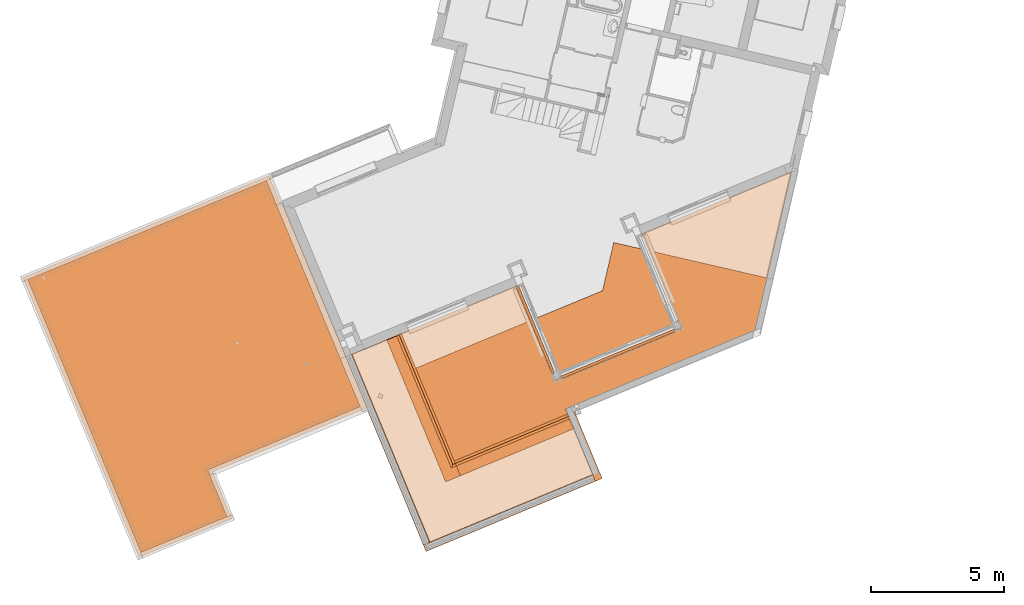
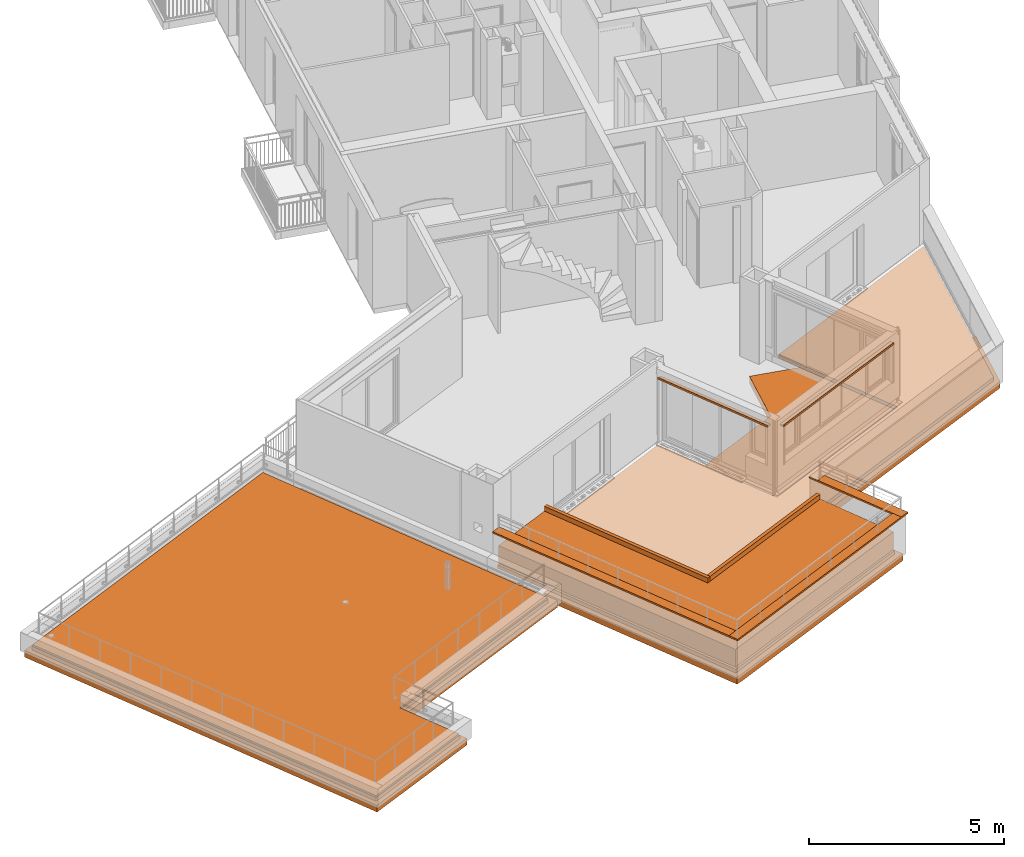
# One storey, part 59 of 62: 13 proxies.
"""IFC2X3 building model written with IfcOpenShell, lengths in metres."""

from ifc_helpers import new_model, entity, si_unit, converted_unit, derived_unit, money_unit, direction, frame, origin_with_axes, place, context, subcontext, project, spatial, faceted_brep, material, material_list, type_object, element, save


model = new_model("IFC2X3")

# Units and contexts
model_context = context("Model", 3, precision=1e-05, world=origin_with_axes(), true_north=direction((0.0, 1.0)))
body_context = subcontext(model_context, "Body", "Model", "MODEL_VIEW")
ifc_project = project(units=[si_unit("LENGTHUNIT", "METRE"), si_unit("AREAUNIT", "SQUARE_METRE"), si_unit("VOLUMEUNIT", "CUBIC_METRE"), converted_unit("PLANEANGLEUNIT", "DEGREE", entity("IfcPlaneAngleMeasure", 0.0174532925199), si_unit("PLANEANGLEUNIT", "RADIAN"), dimensions=[0, 0, 0, 0, 0, 0, 0]), si_unit("SOLIDANGLEUNIT", "STERADIAN"), money_unit("EUR"), converted_unit("TIMEUNIT", "Year", entity("IfcTimeMeasure", 31556926.0), si_unit("TIMEUNIT", "SECOND"), dimensions=[0, 0, 1, 0, 0, 0, 0]), si_unit("MASSUNIT", "GRAM", prefix="KILO"), si_unit("THERMODYNAMICTEMPERATUREUNIT", "DEGREE_CELSIUS"), si_unit("LUMINOUSINTENSITYUNIT", "LUMEN"), si_unit("ENERGYUNIT", "JOULE", prefix="MEGA"), derived_unit("THERMALCONDUCTANCEUNIT", [(si_unit("POWERUNIT", "WATT"), 1), (si_unit("LENGTHUNIT", "METRE"), -1), (si_unit("THERMODYNAMICTEMPERATUREUNIT", "KELVIN"), -1)]), derived_unit("SPECIFICHEATCAPACITYUNIT", [(si_unit("ENERGYUNIT", "JOULE"), 1), (si_unit("MASSUNIT", "GRAM", prefix="KILO"), -1), (si_unit("THERMODYNAMICTEMPERATUREUNIT", "KELVIN"), -1)]), derived_unit("MASSDENSITYUNIT", [(si_unit("MASSUNIT", "GRAM", prefix="KILO"), 1), (si_unit("VOLUMEUNIT", "CUBIC_METRE"), -1)])], contexts=[model_context])

# Site, building, storey
site_placement = place(None, origin_with_axes())
site = spatial("IfcSite", under=ifc_project, at=site_placement, Name="Site", CompositionType="ELEMENT")
building_placement = place(site_placement, origin_with_axes())
building = spatial("IfcBuilding", under=site, at=building_placement, Name="Bâtiment", CompositionType="ELEMENT")
storey_placement = place(building_placement, frame((0.0, 0.0, 8.16), z_axis=(0.0, 0.0, 1.0), x_axis=(1.0, 0.0, 0.0)))
storey = spatial("IfcBuildingStorey", under=building, at=storey_placement, Name="R+3", CompositionType="ELEMENT", Elevation=8.16)

# Proxies
ifc_material_1 = material(Name="Volume - Etude")
building_element_proxy_type_1 = type_object("IfcBuildingElementProxyType", Name="Volume - Etude", PredefinedType="NOTDEFINED")
proxy_1_placement = place(storey_placement, frame((-12.2964408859, -20.5161228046, 2.25000000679), z_axis=(0.0, 0.0, 1.0), x_axis=(-0.165581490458, 0.986196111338, 0.0)))
element("IfcBuildingElementProxy", 1, at=proxy_1_placement, inside=storey, type_object=building_element_proxy_type_1, material=ifc_material_1, Name="Forme-010", context=body_context, shape_type="Brep", body=[
    faceted_brep([(-0.801841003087, 2.93864420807, 0.0200000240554), (-0.801841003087, 2.93864420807, -0.0399999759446), (0.239335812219, -1.57276923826, -0.0399999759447), (0.239335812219, -1.57276923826, 0.0200000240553), (-0.792134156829, 2.94088442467, 0.0200000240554), (-0.792134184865, 2.94088441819, 0.0), (-0.684454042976, 2.96573562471, 0.0), (-0.684454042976, 2.96573562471, -0.0399999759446), (0.356722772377, -1.54567782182, -0.0399999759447), (0.356722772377, -1.54567782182, 0.0), (0.249042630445, -1.57052902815, 0.0), (0.249042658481, -1.57052902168, 0.0200000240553)], [[[0, 1, 2, 3]], [[1, 0, 4, 5, 6, 7]], [[2, 1, 7, 8]], [[3, 2, 8, 9, 10, 11]], [[4, 0, 3, 11]], [[5, 4, 11, 10]], [[6, 5, 10, 9]], [[7, 6, 9, 8]]]),
])
proxy_2_placement = place(storey_placement, frame((-15.9390595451, -20.0945471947, 2.25000000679), z_axis=(0.0, 0.0, 1.0), x_axis=(0.98619611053, 0.165581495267, 0.0)))
element("IfcBuildingElementProxy", 2, at=proxy_2_placement, inside=storey, type_object=building_element_proxy_type_1, material=ifc_material_1, Name="Forme-010", context=body_context, shape_type="Brep", body=[
    faceted_brep([(-0.555983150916, 1.87334347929, 0.0200000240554), (-0.555983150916, 1.87334347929, -0.0399999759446), (0.239335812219, -1.57276923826, -0.0399999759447), (0.239335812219, -1.57276923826, 0.0200000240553), (-0.546276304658, 1.87558369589, 0.0200000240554), (-0.546276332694, 1.87558368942, 0.0), (-0.438596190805, 1.90043489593, 0.0), (-0.438596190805, 1.90043489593, -0.0399999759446), (0.356722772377, -1.54567782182, -0.0399999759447), (0.356722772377, -1.54567782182, 0.0), (0.249042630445, -1.57052902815, 0.0), (0.249042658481, -1.57052902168, 0.0200000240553)], [[[0, 1, 2, 3]], [[1, 0, 4, 5, 6, 7]], [[2, 1, 7, 8]], [[3, 2, 8, 9, 10, 11]], [[4, 0, 3, 11]], [[5, 4, 11, 10]], [[6, 5, 10, 9]], [[7, 6, 9, 8]]]),
])
ifc_material_2 = material(Name="Béton")
building_element_proxy_type_2 = type_object("IfcBuildingElementProxyType", Name="Muret en L H=75 600 x 750", PredefinedType="USERDEFINED")
proxy_3_placement = place(storey_placement, frame((-19.1023919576, -24.8659642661, 0.11), z_axis=(0.0, 0.0, 1.0), x_axis=(-0.383112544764, 0.923701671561, 0.0)))
element("IfcBuildingElementProxy", 3, at=proxy_3_placement, inside=storey, type_object=building_element_proxy_type_2, material=ifc_material_2, Name="Muret béton préfabriqué en L H=75", ObjectType="CONSTRUCTION ELEMENT", context=body_context, shape_type="Brep", body=[
    faceted_brep([(5.15670001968, 0.187068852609, 0.112931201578), (5.17855265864, 0.18058588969, 0.119414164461), (5.1785526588, 0.0, 0.119414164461), (5.15670001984, 0.0, 0.112931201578), (5.18313928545, 0.1, 0.2), (5.18313927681, 0.179225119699, 0.120774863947), (5.15670001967, 0.190000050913, 0.110000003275), (5.15670001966, 0.2, 0.100000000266), (-0.199999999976, 0.2, 0.100000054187), (-0.0999999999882, 0.1, 0.200000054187), (5.18313927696, 0.0, 0.120774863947), (5.18313928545, 0.0, 0.75), (-0.1, 0.0, 0.750000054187), (-0.1, 0.0, 0.200000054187), (-0.2, 0.0, 0.100000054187), (-0.6, 0.0, 0.100000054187), (-0.6, 0.0, 5.4187044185e-08), (5.18313928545, 0.0, 0.0), (5.18313928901, 0.0, 0.0836332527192), (5.17313928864, 0.0, 0.0836332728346), (5.15793410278, 0.0, 0.0836332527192), (5.15670001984, 0.0, 0.0836332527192), (5.15670001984, 0.0, 0.110000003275), (5.18313928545, 0.1, 0.75), (5.15670001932, 0.6, 0.0836332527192), (5.15670001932, 0.6, 0.100000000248), (-0.599999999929, 0.6, 0.100000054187), (-0.599999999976, 0.2, 0.100000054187), (-0.0999999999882, 0.1, 0.750000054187), (-0.599999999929, 0.6, 5.4187044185e-08), (5.18313928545, 0.6, 0.0), (5.18313928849, 0.6, 0.0836332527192), (5.17313928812, 0.6, 0.0836332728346), (5.15793410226, 0.6, 0.0836332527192)], [[[0, 1, 2, 3]], [[4, 5, 1, 0, 6, 7, 8, 9]], [[5, 10, 2, 1]], [[3, 2, 10, 11, 12, 13, 14, 15, 16, 17, 18, 19, 20, 21, 22]], [[0, 3, 22, 6]], [[11, 10, 5, 4, 23]], [[7, 6, 22, 21, 24, 25]], [[8, 7, 25, 26, 27]], [[9, 8, 14, 13]], [[23, 4, 9, 28]], [[11, 23, 28, 12]], [[28, 9, 13, 12]], [[8, 27, 15, 14]], [[26, 29, 16, 15, 27]], [[30, 17, 16, 29]], [[30, 31, 18, 17]], [[31, 32, 19, 18]], [[32, 33, 20, 19]], [[24, 21, 20, 33]], [[25, 24, 33, 32, 31, 30, 29, 26]]]),
])
proxy_4_placement = place(storey_placement, frame((-14.8307755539, -23.0942777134, 0.110000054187), z_axis=(0.0, 0.0, 1.0), x_axis=(-0.923701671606, -0.383112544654, 0.0)))
element("IfcBuildingElementProxy", 4, at=proxy_4_placement, inside=storey, type_object=building_element_proxy_type_2, material=ifc_material_2, Name="Muret béton préfabriqué en L H=75", ObjectType="CONSTRUCTION ELEMENT", context=body_context, shape_type="Brep", body=[
    faceted_brep([(0.0, 0.2, 0.1), (4.62445455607, 0.2, 0.1), (4.62445455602, 0.6, 0.1), (0.0, 0.6, 0.1), (0.0, 0.1, 0.2), (4.62445455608, 0.1, 0.2), (4.62445455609, 0.0, -5.62189939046e-09), (4.62445455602, 0.6, 0.0), (4.62445455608, 0.1, 0.75), (4.62445455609, 0.0, 0.749999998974), (0.0, 0.6, 0.0), (0.0, 0.0, 0.0), (0.0, 0.0, 0.75), (0.0, 0.1, 0.75)], [[[0, 1, 2, 3]], [[4, 5, 1, 0]], [[6, 7, 2, 1, 5, 8, 9]], [[3, 2, 7, 10]], [[0, 3, 10, 11, 12, 13, 4]], [[13, 8, 5, 4]], [[10, 7, 6, 11]], [[12, 9, 8, 13]], [[11, 6, 9, 12]]]),
])
ifc_material_3 = material(Name="Env. - Terre")
building_element_proxy_type_3 = type_object("IfcBuildingElementProxyType", Name="Env. - Terre", PredefinedType="NOTDEFINED")
proxy_5_placement = place(storey_placement, frame((-22.9600165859, -27.9180536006, 0.158024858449), z_axis=(0.0, 0.0, 1.0), x_axis=(1.0, 0.0, 0.0)))
element("IfcBuildingElementProxy", 5, at=proxy_5_placement, inside=storey, type_object=building_element_proxy_type_3, material=ifc_material_3, Name="TER-004", context=body_context, shape_type="Brep", body=[
    faceted_brep([(0.0, 7.04713991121, 0.55), (2.93637268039, 0.0, 0.55), (9.06503012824, 2.52839306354, 0.55), (8.16755228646, 4.73140572, 0.55), (3.80356571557, 2.92140791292, 0.55), (1.78527547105, 7.78759696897, 0.55), (2.93637268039, 0.0, 0.0), (0.0, 7.04713991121, 0.0), (9.06503012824, 2.52839306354, 0.0), (8.16755228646, 4.73140572, 0.0), (3.80356571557, 2.92140791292, 0.0), (1.78527547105, 7.78759696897, 0.0)], [[[0, 1, 2, 3, 4, 5]], [[6, 1, 0, 7]], [[8, 2, 1, 6]], [[9, 3, 2, 8]], [[10, 4, 3, 9]], [[11, 5, 4, 10]], [[7, 0, 5, 11]], [[7, 11, 10, 9, 8, 6]]]),
])
building_element_proxy_type_4 = type_object("IfcBuildingElementProxyType", Name="Béton 210", PredefinedType="NOTDEFINED")
proxy_6_placement = place(storey_placement, frame((-26.0625284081, -14.1554046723, 0.0), z_axis=(0.0, 0.0, 1.0), x_axis=(1.0, 0.0, 0.0)))
element("IfcBuildingElementProxy", 6, at=proxy_6_placement, inside=storey, type_object=building_element_proxy_type_4, material=ifc_material_2, Name="Dalle_004", context=body_context, shape_type="Brep", body=[
    faceted_brep([(-9.22964281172, -3.82806705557, 0.0), (0.0, 0.0, 0.0), (0.0, 0.0, -0.21), (-9.22964281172, -3.82806705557, -0.21), (0.522674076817, -1.08269837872, 0.0), (0.459869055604, -1.10875094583, 0.0), (-4.87511394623, -14.3270331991, 0.0), (-1.38451166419, -12.8792784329, 0.0), (-2.11242538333, -11.1242451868, 0.0), (3.68942646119, -8.71788143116, 0.0), (0.459869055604, -1.10875094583, -0.21), (-4.87511394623, -14.3270331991, -0.21), (0.522674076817, -1.08269837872, -0.21), (3.68942646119, -8.71788143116, -0.21), (-2.11242538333, -11.1242451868, -0.21), (-1.38451166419, -12.8792784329, -0.21)], [[[0, 1, 2, 3]], [[4, 5, 1, 0, 6, 7, 8, 9]], [[1, 5, 10, 2]], [[11, 3, 2, 10, 12, 13, 14, 15]], [[6, 0, 3, 11]], [[5, 4, 12, 10]], [[7, 6, 11, 15]], [[8, 7, 15, 14]], [[9, 8, 14, 13]], [[4, 9, 13, 12]]]),
])
ifc_material_4 = material(Name="Etanchéité - Bitume")
ifc_material_5 = material(Name="Isolation - Polyuréthane (extérieur)")
ifc_material_list = material_list([ifc_material_4, ifc_material_5])
building_element_proxy_type_5 = type_object("IfcBuildingElementProxyType", Name="6 - Isolation sur terrasse sous gravier 110", PredefinedType="NOTDEFINED")
proxy_7_placement = place(storey_placement, frame((-35.1196717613, -18.0548294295, 0.11), z_axis=(0.0, 0.0, 1.0), x_axis=(1.0, 0.0, 0.0)))
element("IfcBuildingElementProxy", 7, at=proxy_7_placement, inside=storey, type_object=building_element_proxy_type_5, material=ifc_material_list, Name="Dalle_003", context=body_context, shape_type="Brep", body=[
    faceted_brep([(0.0, 0.0, -0.01), (4.25338723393, -10.2551089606, -0.01), (4.25338723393, -10.2551089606, 0.0), (0.0, 0.0, 0.0), (8.97192967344, 3.72117850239, -0.01), (12.4974030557, -4.77889728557, -0.01), (6.77221844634, -7.15346270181, -0.01), (7.50013227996, -8.90849587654, -0.01), (7.50013227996, -8.90849587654, 0.0), (8.97192967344, 3.72117850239, 0.0), (6.77221844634, -7.15346270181, 0.0), (12.4974030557, -4.77889728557, 0.0)], [[[0, 1, 2, 3]], [[1, 0, 4, 5, 6, 7]], [[1, 7, 8, 2]], [[9, 3, 2, 8, 10, 11]], [[4, 0, 3, 9]], [[5, 4, 9, 11]], [[6, 5, 11, 10]], [[7, 6, 10, 8]]]),
    faceted_brep([(0.0, 0.0, -0.11), (4.25338723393, -10.2551089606, -0.11), (4.25338723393, -10.2551089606, -0.01), (0.0, 0.0, -0.01), (8.97192967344, 3.72117850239, -0.11), (12.4974030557, -4.77889728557, -0.11), (6.77221844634, -7.15346270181, -0.11), (7.50013227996, -8.90849587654, -0.11), (7.50013227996, -8.90849587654, -0.01), (6.77221844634, -7.15346270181, -0.01), (12.4974030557, -4.77889728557, -0.01), (8.97192967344, 3.72117850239, -0.01)], [[[0, 1, 2, 3]], [[0, 4, 5, 6, 7, 1]], [[1, 7, 8, 2]], [[3, 2, 8, 9, 10, 11]], [[4, 0, 3, 11]], [[5, 4, 11, 10]], [[6, 5, 10, 9]], [[7, 6, 9, 8]]]),
])
ifc_material_6 = material(Name="Env. - Gravier")
building_element_proxy_type_6 = type_object("IfcBuildingElementProxyType", Name="Env. - Gravier 50", PredefinedType="NOTDEFINED")
proxy_8_placement = place(storey_placement, frame((-35.100069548, -18.0629382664, 0.159999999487), z_axis=(0.0, 0.0, 1.0), x_axis=(1.0, 0.0, 0.0)))
element("IfcBuildingElementProxy", 8, at=proxy_8_placement, inside=storey, type_object=building_element_proxy_type_6, material=ifc_material_6, Name="Dalle_003", context=body_context, shape_type="Brep", body=[
    faceted_brep([(4.24189385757, -10.2273979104, 0.0), (0.0, 0.0, 0.0), (0.0, 0.0, -0.05), (4.24189385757, -10.2273979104, -0.05), (12.4581986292, -4.76267961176, 0.0), (8.94421862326, 3.70968512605, 0.0), (7.46092785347, -8.89227820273, 0.0), (6.73301401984, -7.13724502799, 0.0), (8.94421862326, 3.70968512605, -0.05), (7.46092785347, -8.89227820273, -0.05), (12.4581986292, -4.76267961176, -0.05), (6.73301401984, -7.13724502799, -0.05)], [[[0, 1, 2, 3]], [[4, 5, 1, 0, 6, 7]], [[1, 5, 8, 2]], [[9, 3, 2, 8, 10, 11]], [[6, 0, 3, 9]], [[5, 4, 10, 8]], [[7, 6, 9, 11]], [[4, 7, 11, 10]]]),
])
ifc_material_7 = material(Name="Métal - Aluminium")
building_element_proxy_type_7 = type_object("IfcBuildingElementProxyType", Name="Couvertine Métal 280 x 50", PredefinedType="USERDEFINED")
proxy_9_placement = place(storey_placement, frame((-13.7320536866, -25.4465807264, 1.278), z_axis=(0.0, 0.0, 1.0), x_axis=(-0.923701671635, -0.383112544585, 0.0)))
element("IfcBuildingElementProxy", 9, at=proxy_9_placement, inside=storey, type_object=building_element_proxy_type_7, material=ifc_material_7, Name="Couvertine métal laqué", ObjectType="CONSTRUCTION ELEMENT", context=body_context, shape_type="Brep", body=[
    faceted_brep([(7.02094890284, 0.138194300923, -0.0442531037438), (7.0191411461, 0.138194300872, -0.044253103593), (7.0191411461, 0.134946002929, -0.0442531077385), (7.02094890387, 0.134946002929, -0.0442531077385), (-0.134946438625, 0.138194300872, -0.044253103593), (7.02094890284, 0.138194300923, 0.0), (0.140002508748, 0.138194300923, 0.0), (-0.138194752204, 0.138194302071, -1.41714195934e-10), (-0.138194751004, 0.138194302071, -0.0399754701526), (-0.138194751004, 0.138194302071, -0.0442531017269), (7.01561115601, 0.131416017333, -0.0416371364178), (7.01336889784, 0.132422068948, -0.0399754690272), (-0.14000250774, 0.14000205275, -0.048), (7.02094890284, 0.14000205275, -0.048), (-0.131416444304, 0.131416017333, -0.0416371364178), (-0.134946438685, 0.134946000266, -0.0442531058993), (7.02094890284, 0.14000205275, 0.00200000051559), (7.02094890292, -0.14000205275, 0.00200000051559), (7.02094890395, -0.14000205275, 1.54017598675e-09), (7.02094890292, -0.138194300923, 0.0), (-0.132422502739, 0.132422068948, -0.0399754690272), (-0.131416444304, 0.134664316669, -0.041637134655), (7.01914114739, -0.138194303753, 1.54017598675e-09), (6.742751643, -0.138194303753, 1.54017598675e-09), (0.140002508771, -0.138194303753, 1.54017598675e-09), (0.140002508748, 0.14000205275, 0.0), (-0.138194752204, 0.14000205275, 1.8230412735e-09), (-0.138194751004, 0.14000205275, -0.0399754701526), (-0.138194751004, 0.14000205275, -0.0442531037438), (-0.134946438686, 0.14000205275, -0.0442531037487), (0.140002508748, 0.14000205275, 0.002), (0.140002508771, -0.14000205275, 0.002), (6.742751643, -0.14000205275, 1.54017598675e-09), (7.01914114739, -0.14000205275, 1.54017598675e-09), (0.140002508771, -0.14000205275, 1.54017598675e-09), (0.140002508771, -0.14000205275, -0.0399754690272), (0.140002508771, -0.14000205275, -0.0442531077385), (0.140002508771, -0.14000205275, -0.048), (6.74094388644, -0.14000205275, -0.048), (6.74599995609, -0.14000205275, -0.0442531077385), (6.7427516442, -0.14000205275, -0.0442531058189), (6.742751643, -0.14000205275, -0.0399754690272), (6.742751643, -0.138194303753, -0.0399754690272), (6.7427516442, -0.138194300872, -0.0442531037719), (0.140002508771, -0.138194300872, -0.0442531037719), (0.140002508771, -0.138194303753, -0.0399754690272), (0.14000250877, -0.134946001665, -0.0442531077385), (0.134664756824, -0.13141601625, -0.0416371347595), (6.74952995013, -0.13141601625, -0.0416371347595), (6.74599995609, -0.134946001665, -0.0442531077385), (0.138194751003, -0.134946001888, -0.0442531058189), (6.74599995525, -0.138194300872, -0.0442531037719), (6.74952995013, -0.13466431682, -0.0416371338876), (6.74852389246, -0.132422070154, -0.0399754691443), (0.132422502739, -0.132422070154, -0.0399754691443), (0.138194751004, -0.138194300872, -0.0442531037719)], [[[0, 1, 2, 3]], [[4, 1, 0, 5, 6, 7, 8, 9]], [[10, 2, 1, 11]], [[12, 13, 3, 2, 10, 14, 15]], [[0, 3, 13, 16, 17, 18, 19, 5]], [[20, 11, 1, 4, 21]], [[6, 5, 19, 22, 23, 24]], [[7, 6, 25, 26]], [[7, 26, 27, 8]], [[8, 27, 28, 9]], [[28, 29, 4, 9]], [[14, 10, 11, 20]], [[30, 16, 13, 12, 29, 28, 27, 26, 25]], [[21, 4, 15, 14]], [[15, 4, 29, 12]], [[31, 17, 16, 30]], [[32, 33, 18, 17, 31, 34, 35, 36, 37, 38, 39, 40, 41]], [[22, 19, 18, 33]], [[20, 21, 14]], [[23, 22, 33, 32]], [[24, 23, 42, 43, 44, 45]], [[24, 34, 31, 30, 25, 6]], [[34, 24, 45, 35]], [[35, 45, 44, 36]], [[36, 44, 46, 37]], [[47, 48, 49, 38, 37, 46, 50]], [[49, 51, 39, 38]], [[40, 39, 51, 43]], [[41, 40, 43, 42]], [[32, 41, 42, 23]], [[43, 51, 52, 53, 54, 55, 44]], [[50, 46, 44, 55]], [[54, 53, 48, 47]], [[49, 48, 52, 51]], [[54, 47, 50, 55]], [[53, 52, 48]]]),
])
proxy_10_placement = place(storey_placement, frame((-14.7640678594, -22.9583478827, 1.278), z_axis=(0.0, 0.0, 1.0), x_axis=(0.383112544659, -0.923701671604, 0.0)))
element("IfcBuildingElementProxy", 10, at=proxy_10_placement, inside=storey, type_object=building_element_proxy_type_7, material=ifc_material_7, Name="Couvertine métal laqué", ObjectType="CONSTRUCTION ELEMENT", context=body_context, shape_type="Brep", body=[
    faceted_brep([(-0.134946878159, -0.134946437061, -0.0442531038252), (-0.134946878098, -0.138194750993, -0.0442531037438), (-0.131416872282, -0.134664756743, -0.0416371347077), (-0.131416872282, -0.131416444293, -0.041637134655), (-0.140002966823, -0.14000250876, -0.048), (-0.134946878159, -0.14000250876, -0.0442531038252), (-0.132422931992, -0.132422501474, -0.0399754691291), (2.55556811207, -0.138194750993, -0.0442531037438), (2.55881641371, -0.138194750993, -0.0442531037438), (2.56234639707, -0.134664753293, -0.0416371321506), (2.56134034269, -0.132422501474, -0.0399754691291), (2.56234639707, -0.131416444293, -0.041637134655), (2.55881641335, -0.134946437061, -0.0442531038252), (2.55376036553, -0.14000250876, -0.048), (2.83376446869, -0.14000250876, 0.0019999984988), (0.140002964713, -0.14000250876, 0.00199999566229), (0.140002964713, -0.14000250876, 0.0), (-0.14000296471, -0.14000250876, 0.0), (-0.14000296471, -0.14000250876, -0.0399754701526), (-0.138195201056, -0.14000250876, -0.0399754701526), (-0.138195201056, -0.14000250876, -0.0442531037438), (2.55881641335, -0.14000250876, -0.0442531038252), (2.55556811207, -0.14000250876, -0.0442531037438), (2.55556811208, -0.14000250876, -0.0399754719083), (2.55556811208, -0.14000250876, 3.56177309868e-10), (2.83195671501, -0.14000250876, 3.56177309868e-10), (2.83376446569, -0.14000250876, 3.56177309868e-10), (-0.138195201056, -0.138194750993, -0.0442531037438), (-0.14000296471, -0.138194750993, -0.0399754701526), (-0.140002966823, -0.138194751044, 0.0), (0.140002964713, -0.138194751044, 0.0), (2.55556811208, -0.138194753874, 3.56177309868e-10), (2.55556811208, -0.138194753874, -0.0399754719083), (-0.138195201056, -0.138194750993, -0.0399754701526), (0.14000296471, 0.14000250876, 0.00199999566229), (2.83376446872, 0.14000250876, 0.0019999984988), (0.14000296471, 0.14000250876, -5.15942844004e-10), (0.14000296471, 0.138194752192, 1.82305193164e-09), (2.83195671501, -0.138194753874, 3.56177309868e-10), (2.83376446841, -0.138194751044, 0.0), (2.83376446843, 0.138194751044, 0.0), (2.8337644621, 0.138194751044, -0.0442531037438), (2.83376446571, 0.134946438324, -0.0442531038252), (2.83376446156, 0.14000250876, -0.048), (0.14000296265, 0.14000250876, -0.048), (0.14000296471, 0.14000250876, -0.0442531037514), (0.14000296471, 0.14000250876, -0.0399754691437), (0.14000296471, 0.138194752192, -0.0399754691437), (0.14000296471, 0.138194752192, -0.0442531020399), (2.83195671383, 0.138194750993, -0.0442531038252), (2.83195671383, 0.134946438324, -0.0442531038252), (2.82842672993, 0.131416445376, -0.0416371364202), (0.134665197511, 0.131416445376, -0.0416371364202), (0.138195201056, 0.134946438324, -0.0442531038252), (0.14000296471, 0.134946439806, -0.0442531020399), (0.138195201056, 0.138194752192, -0.0442531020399), (0.132422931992, 0.132422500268, -0.0399754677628), (2.82618448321, 0.132422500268, -0.0399754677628)], [[[0, 1, 2, 3]], [[4, 5, 1, 0]], [[6, 2, 1, 7, 8, 9, 10]], [[6, 3, 2]], [[4, 0, 3, 11, 12, 13]], [[14, 15, 16, 17, 18, 19, 20, 5, 4, 13, 21, 22, 23, 24, 25, 26]], [[27, 1, 5, 20]], [[28, 29, 30, 31, 32, 7, 1, 27, 33]], [[22, 21, 8, 7]], [[9, 8, 12, 11]], [[10, 9, 11]], [[11, 3, 6, 10]], [[12, 8, 21, 13]], [[34, 15, 14, 35]], [[30, 16, 15, 34, 36, 37]], [[17, 16, 30, 29]], [[28, 18, 17, 29]], [[33, 19, 18, 28]], [[27, 20, 19, 33]], [[23, 22, 7, 32]], [[24, 23, 32, 31]], [[25, 24, 31, 38]], [[39, 26, 25, 38]], [[26, 39, 40, 41, 42, 43, 35, 14]], [[38, 31, 30, 37, 40, 39]], [[43, 44, 45, 46, 36, 34, 35]], [[46, 47, 37, 36]], [[37, 47, 48, 49, 41, 40]], [[50, 42, 41, 49]], [[50, 51, 52, 53, 54, 44, 43, 42]], [[44, 54, 48, 45]], [[45, 48, 47, 46]], [[55, 56, 57, 49, 48]], [[57, 51, 50, 49]], [[56, 52, 51, 57]], [[56, 55, 53, 52]], [[54, 53, 55, 48]]]),
])
proxy_11_placement = place(storey_placement, frame((-20.0879953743, -28.082757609, 1.278), z_axis=(0.0, 0.0, 1.0), x_axis=(-0.383112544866, 0.923701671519, 0.0)))
element("IfcBuildingElementProxy", 11, at=proxy_11_placement, inside=storey, type_object=building_element_proxy_type_7, material=ifc_material_7, Name="Couvertine métal laqué", ObjectType="CONSTRUCTION ELEMENT", context=body_context, shape_type="Brep", body=[
    faceted_brep([(-0.134946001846, 0.138194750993, -0.0442531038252), (-0.134946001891, 0.14000250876, -0.0442531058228), (-0.140002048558, 0.14000250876, -0.048), (-0.134946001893, 0.134946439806, -0.0442531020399), (-0.13819430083, 0.138194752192, -0.0442531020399), (-0.138194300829, 0.14000250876, -0.0442531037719), (0.140002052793, 0.14000250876, 0.00199999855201), (7.7594457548, 0.14000250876, 0.002), (7.7594457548, 0.14000250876, -0.048), (-0.138194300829, 0.14000250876, -0.0399754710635), (-0.138194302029, 0.14000250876, 0.0), (0.140002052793, 0.14000250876, 0.0), (7.7594457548, 0.131416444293, -0.0416371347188), (-0.13141601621, 0.131416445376, -0.0416371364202), (-0.131416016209, 0.134664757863, -0.0416371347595), (7.7594457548, 0.138194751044, -0.0442531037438), (7.7594457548, 0.138194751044, 0.0), (0.140002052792, 0.138194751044, 0.0), (-0.138194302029, 0.138194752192, 1.82305193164e-09), (-0.13819430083, 0.138194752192, -0.0399754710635), (7.7594457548, -0.14000250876, 0.002), (0.140002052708, -0.14000250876, 0.00199999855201), (7.7594457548, -0.14000250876, -0.048), (7.7594457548, -0.131416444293, -0.0416371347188), (7.7594457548, -0.132422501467, -0.0399754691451), (7.7594457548, -0.138194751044, -0.0442531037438), (7.7594457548, -0.138194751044, 0.0), (7.7594457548, 0.132422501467, -0.0399754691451), (0.140002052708, -0.138194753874, 3.56177309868e-10), (0.140002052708, -0.14000250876, 3.56177309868e-10), (-0.132422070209, 0.132422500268, -0.0399754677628), (0.140002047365, -0.14000250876, -0.048), (0.140002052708, -0.14000250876, -0.0399754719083), (0.140002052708, -0.14000250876, -0.0442531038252), (0.134664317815, -0.131416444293, -0.041637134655), (0.140002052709, -0.134946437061, -0.0442531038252), (0.138194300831, -0.134946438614, -0.0442531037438), (0.132422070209, -0.132422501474, -0.0399754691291), (0.140002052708, -0.138194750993, -0.0442531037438), (0.13819430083, -0.138194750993, -0.0442531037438), (0.140002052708, -0.138194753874, -0.0399754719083)], [[[0, 1, 2, 3]], [[0, 4, 5, 1]], [[6, 7, 8, 2, 1, 5, 9, 10, 11]], [[2, 8, 12, 13, 3]], [[14, 0, 3, 13]], [[4, 0, 15, 16, 17, 18, 19]], [[9, 5, 4, 19]], [[20, 7, 6, 21]], [[12, 8, 7, 20, 22, 23, 24, 25, 26, 16, 15, 27]], [[10, 9, 19, 18]], [[17, 11, 10, 18]], [[21, 6, 11, 17, 28, 29]], [[13, 12, 27, 30]], [[27, 15, 0, 14, 30]], [[13, 30, 14]], [[28, 17, 16, 26]], [[31, 22, 20, 21, 29, 32, 33]], [[34, 23, 22, 31, 35, 36]], [[37, 24, 23, 34]], [[38, 25, 24, 37, 39]], [[28, 26, 25, 38, 40]], [[32, 29, 28, 40]], [[32, 40, 38, 33]], [[38, 35, 31, 33]], [[38, 39, 36, 35]], [[34, 36, 39, 37]]]),
])
building_element_proxy_type_8 = type_object("IfcBuildingElementProxyType", Name="Béton 230", PredefinedType="NOTDEFINED")
proxy_12_placement = place(storey_placement, frame((-20.6947387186, -21.6472938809, 0.0), z_axis=(0.0, 0.0, 1.0), x_axis=(1.0, 0.0, 0.0)))
element("IfcBuildingElementProxy", 12, at=proxy_12_placement, inside=storey, type_object=building_element_proxy_type_8, material=ifc_material_2, Name="Dalle_003", context=body_context, shape_type="Brep", body=[
    faceted_brep([(0.714469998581, -6.44707973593, -0.210000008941), (0.714469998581, -6.44707973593, -0.219999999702), (6.99951621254, -3.84030730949, -0.219999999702), (7.01799020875, -3.83264497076, -0.219999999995), (7.01799022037, -3.83264496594, 0.0), (0.574067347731, -6.50531278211, 0.0), (0.574067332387, -6.50531278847, -0.200000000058), (0.592541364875, -6.49765053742, -0.200000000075), (0.592541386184, -6.49765058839, -0.21), (0.706807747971, -6.42860570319, -0.23), (0.706807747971, -6.42860570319, -0.22), (-1.67190000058, -0.693433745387, -0.21000000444), (-1.67190000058, -0.693433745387, -0.23), (6.99185396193, -3.82183327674, -0.22), (5.85946465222, -1.09159143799, -0.219999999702), (5.87793868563, -1.08392918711, -0.219999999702), (5.9859763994, -1.34441300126, -0.21999999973), (5.98597641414, -1.34441302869, -0.200000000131), (5.98597645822, -1.34441297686, 0.0), (5.98597639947, -1.34441300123, -0.21), (6.00436582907, -1.38875071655, -0.210000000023), (6.00436582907, -1.38875071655, -0.200000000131), (-1.81230262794, -0.751666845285, 0.0), (13.0151797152, 1.57100439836, 0.0), (13.4872579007, 3.61651659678, 0.0), (7.57590690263, 4.9807811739, 0.0), (7.15658902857, 3.1739458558, 0.0), (-0.0727674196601, 0.175513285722, 0.0), (0.0, 0.0, 0.0), (-1.81230265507, -0.751666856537, -0.200000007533), (-1.79382862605, -0.744004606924, -0.200000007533), (-1.79382862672, -0.7440046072, -0.210000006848), (6.99185396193, -3.82183327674, -0.23), (0.0, 0.0, -0.23), (-0.0727674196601, 0.175513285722, -0.23), (7.15658902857, 3.1739458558, -0.23), (7.57590690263, 4.9807811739, -0.23), (12.7077480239, 3.79641755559, -0.23), (12.6785141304, 3.66974725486, -0.23), (12.725284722, 3.65895319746, -0.23), (12.7545186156, 3.78562349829, -0.23), (13.3391510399, 3.65069781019, -0.23), (12.8846689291, 1.68142930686, -0.23), (5.97208099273, -1.18562099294, -0.23), (5.9222763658, -1.06553978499, -0.23), (5.85946465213, -1.09159143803, -0.23), (5.9222763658, -1.06553978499, -0.22), (5.9222763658, -1.06553978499, -0.209999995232), (5.87793868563, -1.08392918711, -0.209999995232), (5.97831416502, -1.32593900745, -0.210000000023), (13.0151797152, 1.57100439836, -0.200000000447), (5.95984013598, -1.33360125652, -0.21), (5.98589178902, -1.39641297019, -0.21), (5.98589178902, -1.39641297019, -0.2), (5.96750238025, -1.35207527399, -0.2), (13.4872579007, 3.61651659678, -0.200000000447), (13.4677701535, 3.62101412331, -0.2), (13.4677701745, 3.62101415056, -0.210000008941), (13.3391510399, 3.65069781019, -0.210000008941), (12.7545186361, 3.78562358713, -0.209999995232), (12.7077480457, 3.7964176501, -0.209999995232), (12.6785141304, 3.66974725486, -0.209999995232), (12.725284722, 3.65895319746, -0.209999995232), (12.8846689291, 1.68142930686, -0.210000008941), (5.97208099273, -1.18562099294, -0.210000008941), (5.97208099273, -1.18562099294, -0.22), (13.0344785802, 1.74356403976, -0.210000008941), (12.9980072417, 1.58553399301, -0.21), (6.0226518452, -1.30754960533, -0.210000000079), (5.95984013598, -1.33360125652, -0.2), (12.9980072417, 1.58553399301, -0.2)], [[[0, 1, 2, 3, 4, 5, 6, 7, 8]], [[9, 10, 1, 0, 11, 12]], [[3, 2, 1, 10, 13, 14, 15, 16]], [[17, 18, 4, 3, 16, 19, 20, 21]], [[22, 5, 4, 18, 23, 24, 25, 26, 27, 28]], [[5, 22, 29, 6]], [[29, 30, 7, 6]], [[30, 31, 8, 7]], [[31, 11, 0, 8]], [[32, 13, 10, 9]], [[11, 31, 30, 29, 22, 28, 33, 12]], [[32, 9, 12, 33, 34, 35, 36, 37, 38, 39, 40, 41, 42, 43, 44, 45]], [[14, 13, 32, 45]], [[15, 14, 45, 44, 46, 47, 48]], [[15, 48, 49, 19, 16]], [[23, 18, 17, 50]], [[51, 52, 20, 19, 49]], [[20, 52, 53, 21]], [[21, 53, 54, 17]], [[55, 24, 23, 50]], [[55, 56, 57, 58, 41, 40, 59, 60, 37, 36, 25, 24]], [[36, 35, 26, 25]], [[35, 34, 27, 26]], [[34, 33, 28, 27]], [[37, 60, 61, 38]], [[39, 38, 61, 62]], [[59, 40, 39, 62]], [[58, 63, 42, 41]], [[64, 65, 43, 42, 63]], [[65, 46, 44, 43]], [[64, 47, 46, 65]], [[48, 47, 64, 63, 66, 67, 68, 49]], [[54, 69, 70, 56, 55, 50, 17]], [[53, 52, 51, 69, 54]], [[70, 69, 51, 49, 68, 67]], [[56, 70, 67, 66, 57]], [[57, 66, 63, 58]], [[60, 59, 62, 61]]]),
])
building_element_proxy_type_9 = type_object("IfcBuildingElementProxyType", Name="6 - Isolation sur terrasse béton protections multiples 110", PredefinedType="NOTDEFINED")
proxy_13_placement = place(storey_placement, frame((-21.0881176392, -20.0782898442, 0.11), z_axis=(0.0, 0.0, 1.0), x_axis=(1.0, 0.0, 0.0)))
element("IfcBuildingElementProxy", 13, at=proxy_13_placement, inside=storey, type_object=building_element_proxy_type_9, material=ifc_material_list, Name="Dalle_003", context=body_context, shape_type="Brep", body=[
    faceted_brep([(14.6507343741, 6.06026848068, -0.00999999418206), (14.6507343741, 6.06026848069, 0.0), (13.278047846, 0.112425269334, 0.0), (13.278047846, 0.112425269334, -0.01), (14.4736380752, 5.98681641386, 0.0), (14.4736380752, 5.98681641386, -0.01), (14.4678913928, 6.00067192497, 0.0), (9.01759559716, 3.74011879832, 0.0), (10.4872686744, 0.196670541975, 0.0), (5.79855898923, -1.74800873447, 0.0), (4.32888590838, 1.79543953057, 0.0), (-1.39698213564, -0.579409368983, 0.0), (-1.39123544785, -0.593264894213, 0.0), (-1.88575440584, -0.798370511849, 0.0), (1.0496158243, -7.87568110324, 0.0), (7.21273340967, -5.31947953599, 0.0), (6.18071958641, -2.83124753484, 0.0), (6.18071958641, -2.83124753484, -0.01), (7.21273340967, -5.31947953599, -0.01), (1.0496158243, -7.87568110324, -0.01), (-1.88575440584, -0.798370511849, -0.01), (-1.39123544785, -0.593264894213, -0.01), (-1.39698213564, -0.579409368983, -0.01), (4.32888590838, 1.79543953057, -0.01), (5.79855898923, -1.74800873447, -0.01), (10.4872686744, 0.196670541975, -0.01), (9.01759559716, 3.74011879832, -0.01), (14.4678913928, 6.00067192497, -0.01)], [[[0, 1, 2, 3]], [[4, 1, 0, 5]], [[4, 6, 7, 8, 9, 10, 11, 12, 13, 14, 15, 16, 2, 1]], [[17, 3, 2, 16]], [[5, 0, 3, 17, 18, 19, 20, 21, 22, 23, 24, 25, 26, 27]], [[6, 4, 5, 27]], [[6, 27, 26, 7]], [[26, 25, 8, 7]], [[25, 24, 9, 8]], [[24, 23, 10, 9]], [[22, 11, 10, 23]], [[12, 11, 22, 21]], [[13, 12, 21, 20]], [[13, 20, 19, 14]], [[19, 18, 15, 14]], [[18, 17, 16, 15]]]),
    faceted_brep([(0.0, 0.0, -0.11), (-1.89150109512, -0.784514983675, -0.11), (-1.89150109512, -0.784514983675, -0.01), (0.0, 0.0, -0.01), (4.32888590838, 1.79543953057, -0.11), (5.79855898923, -1.74800873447, -0.11), (10.4872686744, 0.196670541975, -0.11), (9.01759559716, 3.74011879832, -0.11), (14.6548788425, 6.07822644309, -0.11), (13.278047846, 0.112425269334, -0.11), (6.18071958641, -2.83124753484, -0.11), (7.21273340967, -5.31947953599, -0.11), (1.0496158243, -7.87568110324, -0.11), (1.0496158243, -7.87568110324, -0.01), (7.21273340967, -5.31947953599, -0.01), (6.18071958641, -2.83124753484, -0.01), (13.278047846, 0.112425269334, -0.01), (14.6548788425, 6.07822644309, -0.01), (9.01759559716, 3.74011879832, -0.01), (10.4872686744, 0.196670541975, -0.01), (5.79855898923, -1.74800873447, -0.01), (4.32888590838, 1.79543953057, -0.01)], [[[0, 1, 2, 3]], [[0, 4, 5, 6, 7, 8, 9, 10, 11, 12, 1]], [[1, 12, 13, 2]], [[3, 2, 13, 14, 15, 16, 17, 18, 19, 20, 21]], [[4, 0, 3, 21]], [[5, 4, 21, 20]], [[6, 5, 20, 19]], [[7, 6, 19, 18]], [[8, 7, 18, 17]], [[9, 8, 17, 16]], [[10, 9, 16, 15]], [[11, 10, 15, 14]], [[12, 11, 14, 13]]]),
])

save(model, "model.ifc")
